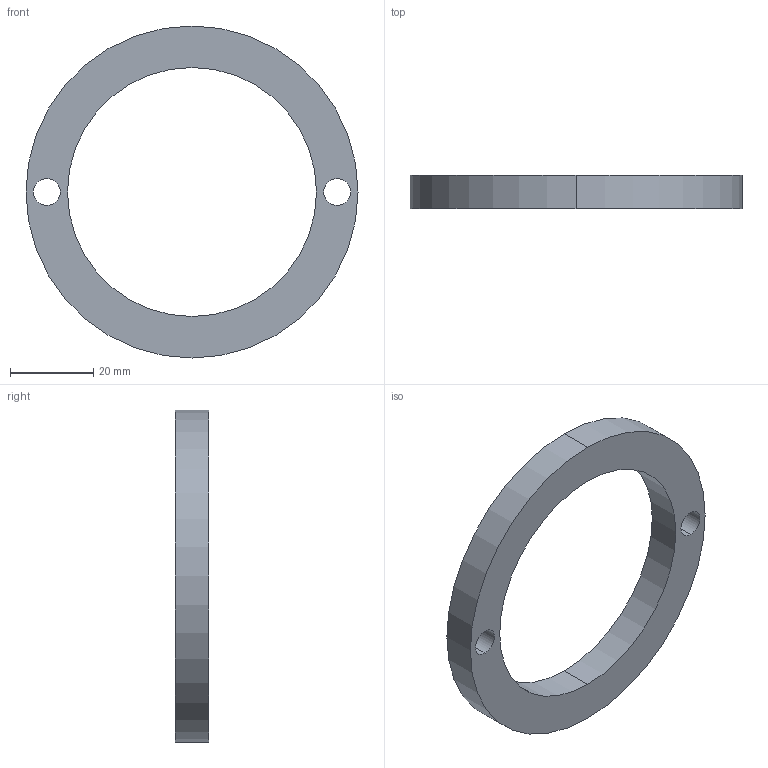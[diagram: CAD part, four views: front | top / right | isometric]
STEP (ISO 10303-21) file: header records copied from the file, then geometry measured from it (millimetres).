
FILE_DESCRIPTION (( 'STEP AP214' ), '1' );
FILE_NAME ('BRDCO-080.STEP', '2020-02-05T09:08:11', ( 'August' ), ( '' ), 'SwSTEP 2.0', 'SolidWorks 2018', '' );
FILE_SCHEMA (( 'AUTOMOTIVE_DESIGN' ));
Length unit declared in the file: millimetre
Products named in the file (1): BRDCO-080
Bounding box: 80 x 8 x 80 mm (x, y, z)
Volume: 17062 mm3; surface area: 8110.8 mm2
Topology: 1 solids, 1 shells, 10 faces, 24 edges, 16 vertices
Faces by surface type: cylinder 8, plane 2
Entity records: 350 total; most frequent: DIRECTION 62, CARTESIAN_POINT 51, ORIENTED_EDGE 48, AXIS2_PLACEMENT_3D 27, EDGE_CURVE 24, VERTEX_POINT 16, CIRCLE 16, EDGE_LOOP 16
